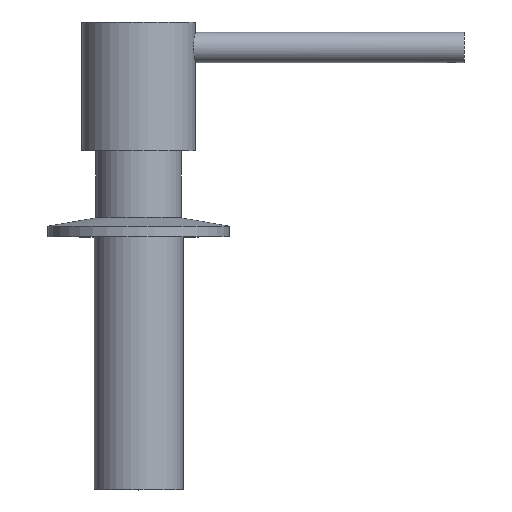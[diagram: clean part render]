
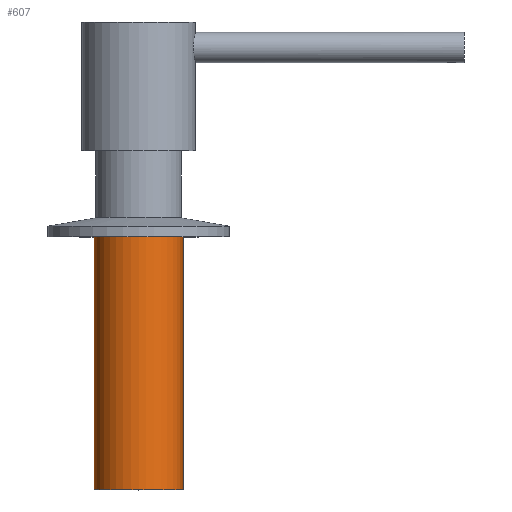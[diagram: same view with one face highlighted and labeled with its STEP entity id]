
A CAD part, top view. The second image highlights one B-rep face of the part: STEP entity #607.
In plain terms, the highlighted cylindrical face has radius 11.75 mm (diameter 23.5 mm), a partial arc.
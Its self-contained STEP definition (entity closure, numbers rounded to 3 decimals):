
#542=CARTESIAN_POINT('',(0.,72.,0.));
#543=DIRECTION('',(0.,1.,0.));
#544=DIRECTION('',(1.,0.,0.));
#545=AXIS2_PLACEMENT_3D('',#542,#543,#544);
#547=DIRECTION('',(0.,-1.,0.));
#548=VECTOR('',#547,66.8);
#549=CARTESIAN_POINT('',(11.75,72.,0.));
#550=LINE('',#549,#548);
#556=DIRECTION('',(0.,-1.,0.));
#557=VECTOR('',#556,66.8);
#558=CARTESIAN_POINT('',(-11.75,72.,0.));
#559=LINE('',#558,#557);
#565=CARTESIAN_POINT('',(0.,5.2,0.));
#566=DIRECTION('',(0.,1.,0.));
#567=DIRECTION('',(1.,0.,0.));
#568=AXIS2_PLACEMENT_3D('',#565,#566,#567);
#580=CARTESIAN_POINT('',(-11.75,72.,0.));
#581=CARTESIAN_POINT('',(11.75,72.,0.));
#582=VERTEX_POINT('',#580);
#583=VERTEX_POINT('',#581);
#584=CARTESIAN_POINT('',(-11.75,5.2,0.));
#585=CARTESIAN_POINT('',(11.75,5.2,0.));
#586=VERTEX_POINT('',#584);
#587=VERTEX_POINT('',#585);
#592=CARTESIAN_POINT('',(0.,72.,0.));
#593=DIRECTION('',(0.,1.,0.));
#594=DIRECTION('',(-1.,0.,0.));
#595=AXIS2_PLACEMENT_3D('',#592,#593,#594);
#596=CYLINDRICAL_SURFACE('',#595,11.75);
#598=ORIENTED_EDGE('',*,*,#597,.T.);
#600=ORIENTED_EDGE('',*,*,#599,.T.);
#602=ORIENTED_EDGE('',*,*,#601,.F.);
#604=ORIENTED_EDGE('',*,*,#603,.F.);
#605=EDGE_LOOP('',(#598,#600,#602,#604));
#606=FACE_OUTER_BOUND('',#605,.F.);
#607=ADVANCED_FACE('',(#606),#596,.T.);
#546=CIRCLE('',#545,11.75);
#569=CIRCLE('',#568,11.75);
#597=EDGE_CURVE('',#583,#582,#546,.T.);
#599=EDGE_CURVE('',#582,#586,#559,.T.);
#601=EDGE_CURVE('',#587,#586,#569,.T.);
#603=EDGE_CURVE('',#583,#587,#550,.T.);
